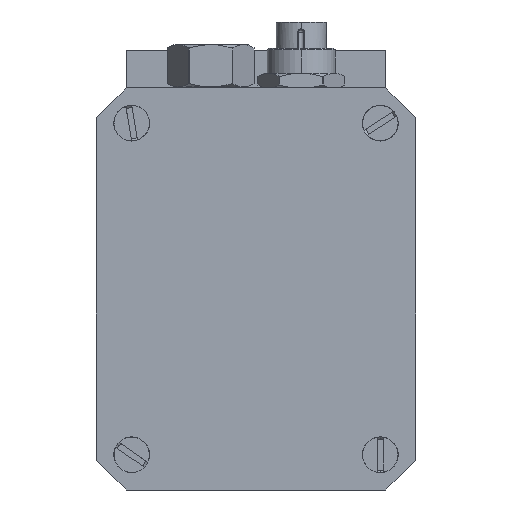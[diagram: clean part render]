
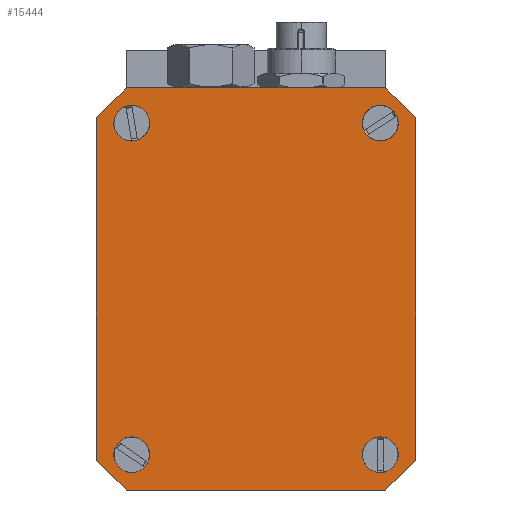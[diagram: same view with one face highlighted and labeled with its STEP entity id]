
A CAD part, front view. The second image highlights one B-rep face of the part: STEP entity #15444.
In plain terms, the highlighted planar face has unit normal (0, -1, 0).
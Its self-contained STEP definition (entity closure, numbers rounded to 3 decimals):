
#4407 = EDGE_CURVE ( 'NONE', #5865, #5864, #6893, .T. ) ;
#4417 = EDGE_CURVE ( 'NONE', #5857, #5856, #6909, .T. ) ;
#4427 = EDGE_CURVE ( 'NONE', #5849, #5848, #6925, .T. ) ;
#4437 = EDGE_CURVE ( 'NONE', #5841, #5840, #6941, .T. ) ;
#4453 = EDGE_CURVE ( 'NONE', #5856, #5857, #6963, .T. ) ;
#4454 = EDGE_CURVE ( 'NONE', #5848, #5849, #6964, .T. ) ;
#4455 = EDGE_CURVE ( 'NONE', #5840, #5841, #6966, .T. ) ;
#4456 = EDGE_CURVE ( 'NONE', #5827, #5826, #6965, .T. ) ;
#4457 = EDGE_CURVE ( 'NONE', #5826, #5825, #6968, .T. ) ;
#4458 = EDGE_CURVE ( 'NONE', #5825, #5824, #6970, .T. ) ;
#4459 = EDGE_CURVE ( 'NONE', #5824, #5823, #6972, .T. ) ;
#4460 = EDGE_CURVE ( 'NONE', #5823, #5822, #6974, .T. ) ;
#4461 = EDGE_CURVE ( 'NONE', #5822, #5821, #6976, .T. ) ;
#4462 = EDGE_CURVE ( 'NONE', #5821, #5820, #6978, .T. ) ;
#4463 = EDGE_CURVE ( 'NONE', #5820, #5827, #6980, .T. ) ;
#4464 = EDGE_CURVE ( 'NONE', #5864, #5865, #6982, .T. ) ;
#5820 = VERTEX_POINT ( 'NONE', #9823 ) ;
#5821 = VERTEX_POINT ( 'NONE', #9824 ) ;
#5822 = VERTEX_POINT ( 'NONE', #9825 ) ;
#5823 = VERTEX_POINT ( 'NONE', #9826 ) ;
#5824 = VERTEX_POINT ( 'NONE', #9827 ) ;
#5825 = VERTEX_POINT ( 'NONE', #9828 ) ;
#5826 = VERTEX_POINT ( 'NONE', #9829 ) ;
#5827 = VERTEX_POINT ( 'NONE', #9830 ) ;
#5840 = VERTEX_POINT ( 'NONE', #9843 ) ;
#5841 = VERTEX_POINT ( 'NONE', #9844 ) ;
#5848 = VERTEX_POINT ( 'NONE', #9851 ) ;
#5849 = VERTEX_POINT ( 'NONE', #9852 ) ;
#5856 = VERTEX_POINT ( 'NONE', #9859 ) ;
#5857 = VERTEX_POINT ( 'NONE', #9860 ) ;
#5864 = VERTEX_POINT ( 'NONE', #9867 ) ;
#5865 = VERTEX_POINT ( 'NONE', #9868 ) ;
#6893 = CIRCLE ( 'NONE', #17340, 2.375 ) ;
#6909 = CIRCLE ( 'NONE', #17344, 2.375 ) ;
#6925 = CIRCLE ( 'NONE', #17348, 2.375 ) ;
#6941 = CIRCLE ( 'NONE', #17352, 2.375 ) ;
#6963 = CIRCLE ( 'NONE', #17357, 2.375 ) ;
#6964 = CIRCLE ( 'NONE', #17358, 2.375 ) ;
#6965 = LINE ( 'NONE', #7455, #6967 ) ;
#6966 = CIRCLE ( 'NONE', #17359, 2.375 ) ;
#6967 = VECTOR ( 'NONE', #7456, 1000. ) ;
#6968 = LINE ( 'NONE', #7457, #6969 ) ;
#6969 = VECTOR ( 'NONE', #7458, 1000. ) ;
#6970 = LINE ( 'NONE', #7459, #6971 ) ;
#6971 = VECTOR ( 'NONE', #7460, 1000. ) ;
#6972 = LINE ( 'NONE', #7461, #6973 ) ;
#6973 = VECTOR ( 'NONE', #7462, 1000. ) ;
#6974 = LINE ( 'NONE', #7463, #6975 ) ;
#6975 = VECTOR ( 'NONE', #7464, 1000. ) ;
#6976 = LINE ( 'NONE', #7465, #6977 ) ;
#6977 = VECTOR ( 'NONE', #7466, 1000. ) ;
#6978 = LINE ( 'NONE', #7467, #6979 ) ;
#6979 = VECTOR ( 'NONE', #7468, 1000. ) ;
#6980 = LINE ( 'NONE', #7469, #6981 ) ;
#6981 = VECTOR ( 'NONE', #7470, 1000. ) ;
#6982 = CIRCLE ( 'NONE', #17360, 2.375 ) ;
#7333 = CARTESIAN_POINT ( 'NONE',  ( 51.215, -103.819, -138.759 ) ) ;
#7334 = DIRECTION ( 'NONE',  ( 0., -1., 0. ) ) ;
#7335 = DIRECTION ( 'NONE',  ( 0., 0., 1. ) ) ;
#7357 = CARTESIAN_POINT ( 'NONE',  ( 84.215, -103.819, -138.759 ) ) ;
#7358 = DIRECTION ( 'NONE',  ( 0., -1., 0. ) ) ;
#7359 = DIRECTION ( 'NONE',  ( 0., 0., 1. ) ) ;
#7381 = CARTESIAN_POINT ( 'NONE',  ( 51.215, -103.819, -182.759 ) ) ;
#7382 = DIRECTION ( 'NONE',  ( 0., -1., 0. ) ) ;
#7383 = DIRECTION ( 'NONE',  ( 0., 0., 1. ) ) ;
#7405 = CARTESIAN_POINT ( 'NONE',  ( 84.215, -103.819, -182.759 ) ) ;
#7406 = DIRECTION ( 'NONE',  ( 0., -1., 0. ) ) ;
#7407 = DIRECTION ( 'NONE',  ( 0., 0., 1. ) ) ;
#7446 = CARTESIAN_POINT ( 'NONE',  ( 84.215, -103.819, -138.759 ) ) ;
#7447 = DIRECTION ( 'NONE',  ( 0., -1., 0. ) ) ;
#7448 = DIRECTION ( 'NONE',  ( 0., 0., 1. ) ) ;
#7449 = CARTESIAN_POINT ( 'NONE',  ( 51.215, -103.819, -182.759 ) ) ;
#7450 = DIRECTION ( 'NONE',  ( 0., -1., 0. ) ) ;
#7451 = DIRECTION ( 'NONE',  ( 0., 0., 1. ) ) ;
#7452 = CARTESIAN_POINT ( 'NONE',  ( 84.215, -103.819, -182.759 ) ) ;
#7453 = DIRECTION ( 'NONE',  ( 0., -1., 0. ) ) ;
#7454 = DIRECTION ( 'NONE',  ( 0., 0., 1. ) ) ;
#7455 = CARTESIAN_POINT ( 'NONE',  ( 88.889, -103.819, -187.259 ) ) ;
#7456 = DIRECTION ( 'NONE',  ( 0., 0., 1. ) ) ;
#7457 = CARTESIAN_POINT ( 'NONE',  ( 88.838, -103.819, -137.985 ) ) ;
#7458 = DIRECTION ( 'NONE',  ( -0.707, 0., 0.707 ) ) ;
#7459 = CARTESIAN_POINT ( 'NONE',  ( 46.715, -103.819, -134.084 ) ) ;
#7460 = DIRECTION ( 'NONE',  ( -1., 0., 0. ) ) ;
#7461 = CARTESIAN_POINT ( 'NONE',  ( 50.441, -103.819, -134.135 ) ) ;
#7462 = DIRECTION ( 'NONE',  ( -0.707, 0., -0.707 ) ) ;
#7463 = CARTESIAN_POINT ( 'NONE',  ( 46.54, -103.819, -187.259 ) ) ;
#7464 = DIRECTION ( 'NONE',  ( 0., 0., -1. ) ) ;
#7465 = CARTESIAN_POINT ( 'NONE',  ( 46.591, -103.819, -183.532 ) ) ;
#7466 = DIRECTION ( 'NONE',  ( 0.707, 0., -0.707 ) ) ;
#7467 = CARTESIAN_POINT ( 'NONE',  ( 46.715, -103.819, -187.433 ) ) ;
#7468 = DIRECTION ( 'NONE',  ( 1., 0., 0. ) ) ;
#7469 = CARTESIAN_POINT ( 'NONE',  ( 84.988, -103.819, -187.382 ) ) ;
#7470 = DIRECTION ( 'NONE',  ( 0.707, 0., 0.707 ) ) ;
#7471 = CARTESIAN_POINT ( 'NONE',  ( 51.215, -103.819, -138.759 ) ) ;
#7472 = DIRECTION ( 'NONE',  ( 0., -1., 0. ) ) ;
#7473 = DIRECTION ( 'NONE',  ( 0., 0., 1. ) ) ;
#9823 = CARTESIAN_POINT ( 'NONE',  ( 84.937, -103.819, -187.433 ) ) ;
#9824 = CARTESIAN_POINT ( 'NONE',  ( 50.493, -103.819, -187.433 ) ) ;
#9825 = CARTESIAN_POINT ( 'NONE',  ( 46.54, -103.819, -183.481 ) ) ;
#9826 = CARTESIAN_POINT ( 'NONE',  ( 46.54, -103.819, -138.036 ) ) ;
#9827 = CARTESIAN_POINT ( 'NONE',  ( 50.493, -103.819, -134.084 ) ) ;
#9828 = CARTESIAN_POINT ( 'NONE',  ( 84.937, -103.819, -134.084 ) ) ;
#9829 = CARTESIAN_POINT ( 'NONE',  ( 88.889, -103.819, -138.036 ) ) ;
#9830 = CARTESIAN_POINT ( 'NONE',  ( 88.889, -103.819, -183.481 ) ) ;
#9843 = CARTESIAN_POINT ( 'NONE',  ( 84.215, -103.819, -180.384 ) ) ;
#9844 = CARTESIAN_POINT ( 'NONE',  ( 84.215, -103.819, -185.134 ) ) ;
#9851 = CARTESIAN_POINT ( 'NONE',  ( 51.215, -103.819, -180.384 ) ) ;
#9852 = CARTESIAN_POINT ( 'NONE',  ( 51.215, -103.819, -185.134 ) ) ;
#9859 = CARTESIAN_POINT ( 'NONE',  ( 84.215, -103.819, -136.384 ) ) ;
#9860 = CARTESIAN_POINT ( 'NONE',  ( 84.215, -103.819, -141.134 ) ) ;
#9867 = CARTESIAN_POINT ( 'NONE',  ( 51.215, -103.819, -136.384 ) ) ;
#9868 = CARTESIAN_POINT ( 'NONE',  ( 51.215, -103.819, -141.134 ) ) ;
#11033 = FACE_BOUND ( 'NONE', #16605, .T. ) ;
#11034 = FACE_BOUND ( 'NONE', #18331, .T. ) ;
#11035 = FACE_BOUND ( 'NONE', #16698, .T. ) ;
#11036 = FACE_OUTER_BOUND ( 'NONE', #16706, .T. ) ;
#11037 = FACE_BOUND ( 'NONE', #18334, .T. ) ;
#15444 = ADVANCED_FACE ( 'NONE', ( #11033, #11034, #11035, #11036, #11037 ), #21393, .F. ) ;
#16605 = EDGE_LOOP ( 'NONE', ( #19630, #19631 ) ) ;
#16698 = EDGE_LOOP ( 'NONE', ( #19634, #19635 ) ) ;
#16706 = EDGE_LOOP ( 'NONE', ( #19636, #19637, #19638, #19639, #19640, #19641, #19642, #19643 ) ) ;
#17340 = AXIS2_PLACEMENT_3D ( 'NONE', #7333, #7334, #7335 ) ;
#17344 = AXIS2_PLACEMENT_3D ( 'NONE', #7357, #7358, #7359 ) ;
#17348 = AXIS2_PLACEMENT_3D ( 'NONE', #7381, #7382, #7383 ) ;
#17352 = AXIS2_PLACEMENT_3D ( 'NONE', #7405, #7406, #7407 ) ;
#17357 = AXIS2_PLACEMENT_3D ( 'NONE', #7446, #7447, #7448 ) ;
#17358 = AXIS2_PLACEMENT_3D ( 'NONE', #7449, #7450, #7451 ) ;
#17359 = AXIS2_PLACEMENT_3D ( 'NONE', #7452, #7453, #7454 ) ;
#17360 = AXIS2_PLACEMENT_3D ( 'NONE', #7471, #7472, #7473 ) ;
#17748 = AXIS2_PLACEMENT_3D ( 'NONE', #21394, #21395, #21396 ) ;
#18331 = EDGE_LOOP ( 'NONE', ( #19632, #19633 ) ) ;
#18334 = EDGE_LOOP ( 'NONE', ( #19644, #19645 ) ) ;
#19630 = ORIENTED_EDGE ( 'NONE', *, *, #4453, .F. ) ;
#19631 = ORIENTED_EDGE ( 'NONE', *, *, #4417, .F. ) ;
#19632 = ORIENTED_EDGE ( 'NONE', *, *, #4454, .F. ) ;
#19633 = ORIENTED_EDGE ( 'NONE', *, *, #4427, .F. ) ;
#19634 = ORIENTED_EDGE ( 'NONE', *, *, #4455, .F. ) ;
#19635 = ORIENTED_EDGE ( 'NONE', *, *, #4437, .F. ) ;
#19636 = ORIENTED_EDGE ( 'NONE', *, *, #4456, .T. ) ;
#19637 = ORIENTED_EDGE ( 'NONE', *, *, #4457, .T. ) ;
#19638 = ORIENTED_EDGE ( 'NONE', *, *, #4458, .T. ) ;
#19639 = ORIENTED_EDGE ( 'NONE', *, *, #4459, .T. ) ;
#19640 = ORIENTED_EDGE ( 'NONE', *, *, #4460, .T. ) ;
#19641 = ORIENTED_EDGE ( 'NONE', *, *, #4461, .T. ) ;
#19642 = ORIENTED_EDGE ( 'NONE', *, *, #4462, .T. ) ;
#19643 = ORIENTED_EDGE ( 'NONE', *, *, #4463, .T. ) ;
#19644 = ORIENTED_EDGE ( 'NONE', *, *, #4464, .F. ) ;
#19645 = ORIENTED_EDGE ( 'NONE', *, *, #4407, .F. ) ;
#21393 = PLANE ( 'NONE',  #17748 ) ;
#21394 = CARTESIAN_POINT ( 'NONE',  ( 88.715, -103.819, -187.259 ) ) ;
#21395 = DIRECTION ( 'NONE',  ( 0., 1., 0. ) ) ;
#21396 = DIRECTION ( 'NONE',  ( 0., 0., -1. ) ) ;
